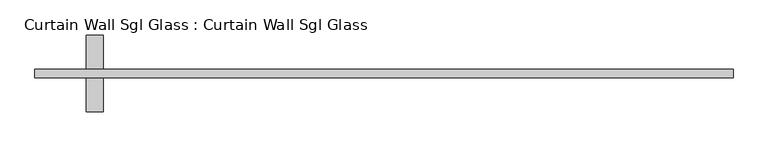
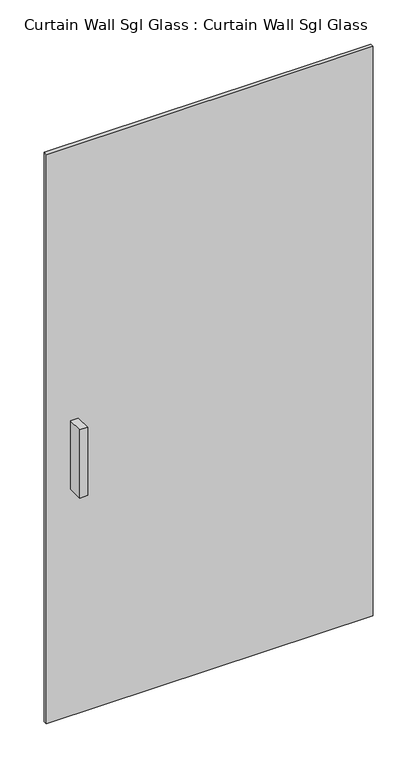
"""IFC4 building model written with IfcOpenShell, lengths in millimetres: plate geometry, Curtain Wall Sgl Glass : Curtain Wall Sgl Glass."""

from ifc_helpers import new_model, si_unit, frame, origin, origin_with_axes, place, context, project, spatial, polyline, outline, extrude, source, transform, mapped, element, save


def curtain_wall_sgl_glass_curtain_wall_sgl_glass_4df18203(model_context):
    return source(origin(), model_context, "Body", "SweptSolid", [
        extrude(outline(polyline([(-417.2620624, -12.7), (-442.6620624, -12.7), (-442.6620624, 38.1), (-417.2620624, 38.1), (-417.2620624, -12.7)])), frame((0.0, 0.0, 762.0), z_axis=(0.0, 0.0, 1.0), x_axis=(1.0, 0.0, 0.0)), (0.0, 0.0, 1.0), 228.6),
        extrude(outline(polyline([(-442.6620624, 101.6), (-417.2620624, 101.6), (-417.2620624, 50.8), (-442.6620624, 50.8), (-442.6620624, 101.6)])), frame((0.0, 0.0, 762.0), z_axis=(0.0, 0.0, 1.0), x_axis=(1.0, 0.0, 0.0)), (0.0, 0.0, 1.0), 228.6),
        extrude(outline(polyline([(518.8620624, 50.8), (518.8620624, 38.1), (-518.8620624, 38.1), (-518.8620624, 50.8), (518.8620624, 50.8)])), origin_with_axes(), (0.0, 0.0, 1.0), 1910.5835323),
    ])


if __name__ == "__main__":
    model = new_model("IFC4")
    model_context = context("Model", 3, world=origin())
    ifc_project = project(units=[si_unit("LENGTHUNIT", "METRE", prefix="MILLI")], contexts=[model_context])
    site = spatial("IfcSite", under=ifc_project)
    building = spatial("IfcBuilding", under=site)
    placement = place(None, origin())
    curtain_wall_sgl_glass_curtain_wall_sgl_glass_shape = curtain_wall_sgl_glass_curtain_wall_sgl_glass_4df18203(model_context)
    element("IfcPlate", 1, ObjectType="Curtain Wall Sgl Glass : Curtain Wall Sgl Glass", at=placement, inside=building, context=model_context, shape_type="MappedRepresentation", body=[
        mapped(curtain_wall_sgl_glass_curtain_wall_sgl_glass_shape, transform((0.0, 0.0, 0.0), x_axis=(1.0, 0.0, 0.0), y_axis=(0.0, 1.0, 0.0), z_axis=(0.0, 0.0, 1.0))),
    ])
    save(model, "model.ifc")
